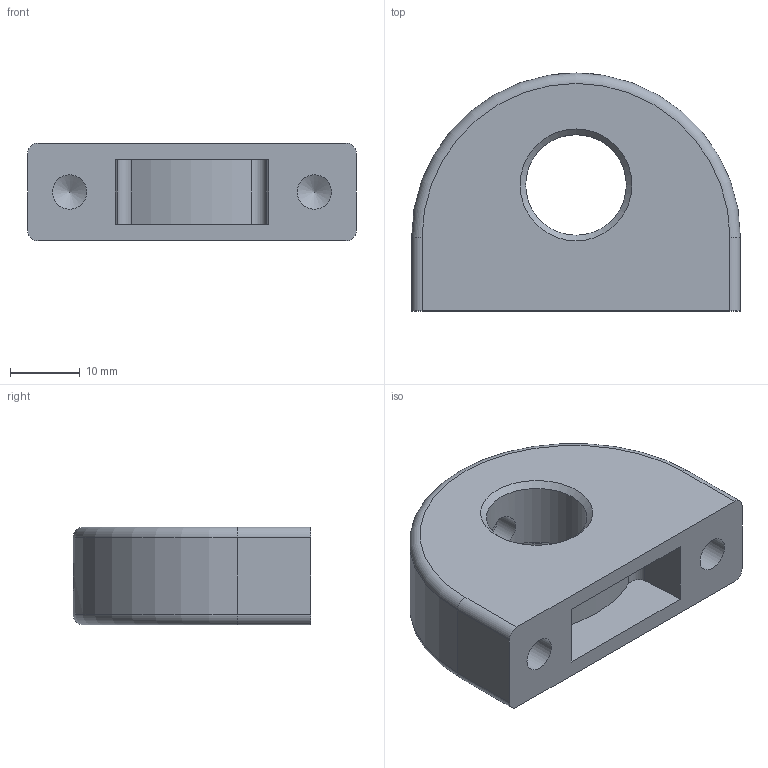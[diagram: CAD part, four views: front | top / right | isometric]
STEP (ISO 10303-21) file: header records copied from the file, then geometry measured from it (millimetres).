
FILE_DESCRIPTION( ( 'STEP AP203' ), '1' );
FILE_NAME( 'C:/Temp/Ganter_Step_05_03_2020/data/3_1/gn412_1/Mounting block GN 412.1-47-M16x1,5-2.stp', '2020-03-12T08:30:56', ( 'License CC BY-ND 4.0' ), ( 'CADENAS' ), ' ', 'PARTsolutions', ' ' );
FILE_SCHEMA( ( 'CONFIG_CONTROL_DESIGN' ) );
Length unit declared in the file: millimetre
Products named in the file (1): _Mounting block GN 412.1-47-M16x1,5-2
Bounding box: 47 x 34 x 14 mm (x, y, z)
Volume: 14482.4 mm3; surface area: 5864.6 mm2
Topology: 1 solids, 1 shells, 43 faces, 96 edges, 60 vertices
Faces by surface type: plane 19, cylinder 15, cone 7, torus 2
Full cylindrical faces by diameter (mm): 3 x1, 4.917 x2, 5 x2, 14.376 x1, 16.2 x1
Entity records: 1276 total; most frequent: CARTESIAN_POINT 308, DIRECTION 200, ORIENTED_EDGE 160, EDGE_CURVE 80, AXIS2_PLACEMENT_3D 78, EDGE_LOOP 64, VERTEX_POINT 60, FACE_OUTER_BOUND 50
